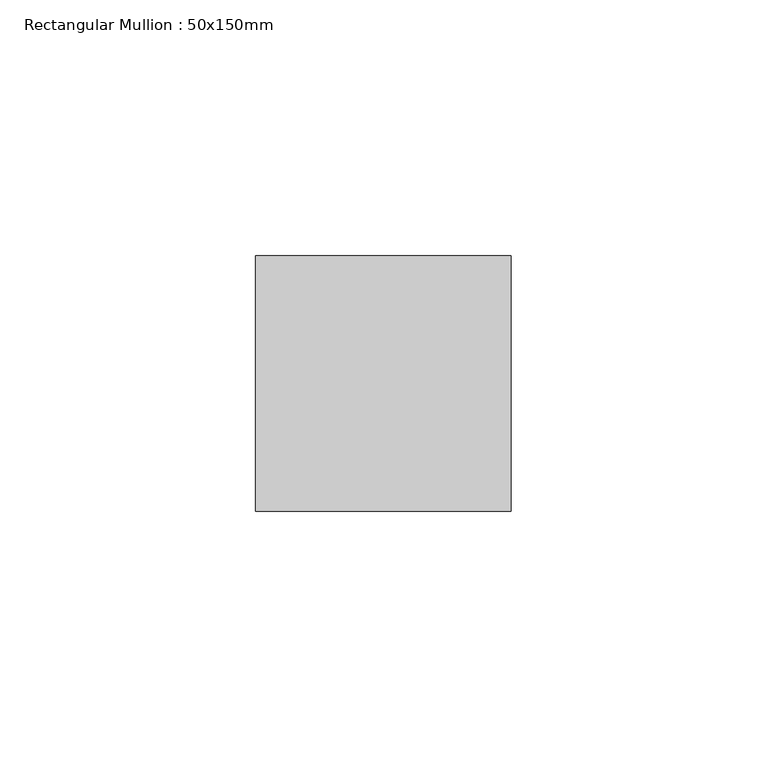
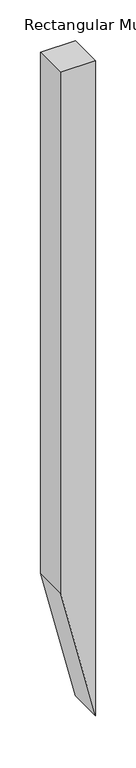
"""IFC4 building model written with IfcOpenShell, lengths in millimetres: member geometry, Rectangular Mullion : 50x150mm."""

import ifcopenshell
import ifcopenshell.guid

model = None  # the IFC model being written
_history = None  # IfcOwnerHistory: only IFC2X3 demands one
_inside = {}  # id of a spatial element -> (the spatial element, [elements in it])
_under = {}  # id of a project, library or spatial element -> (it, [spatial elements below it])
_declared = {}  # id of a project -> (the project, [libraries it declares])
_typed = {}  # id of a type object -> (the type object, [elements of that type])
_made_of = {}  # id of a material, layer set ... -> (it, [elements and type objects made of it])


def new_model(schema):
    """Start an empty IFC model of exactly this schema.

    Asked for "IFC4X3", IfcOpenShell would pick the latest addendum, in which some entities
    have other attributes; the version numbers below select the first issue.
    IFC2X3 requires an IfcOwnerHistory on every rooted entity: one is made here for all.
    """
    global model, _history
    if schema == "IFC4X3":
        model = ifcopenshell.file(schema_version=(4, 3, 0, 0))
    else:
        model = ifcopenshell.file(schema=schema)
    _inside.clear()
    _under.clear()
    _declared.clear()
    _typed.clear()
    _made_of.clear()
    _history = None
    if model.schema == "IFC2X3":
        org = make("IfcOrganization", Name="unknown")
        user = make(
            "IfcPersonAndOrganization",
            ThePerson=make("IfcPerson", FamilyName="unknown"),
            TheOrganization=org,
        )
        app = make(
            "IfcApplication",
            ApplicationDeveloper=org,
            Version="unknown",
            ApplicationFullName="unknown",
            ApplicationIdentifier="unknown",
        )
        _history = make(
            "IfcOwnerHistory",
            OwningUser=user,
            OwningApplication=app,
            ChangeAction="ADDED",
            CreationDate=0,
        )
    return model


def make(cls, **values):
    """One entity of the class cls with the attributes given. An attribute that is None is left unset."""
    return model.create_entity(
        cls, **{name: value for name, value in values.items() if value is not None}
    )


def rooted(cls, **values):
    """An entity with a GlobalId (a new one), such as an element, a storey or a relation."""
    return make(cls, GlobalId=ifcopenshell.guid.new(), OwnerHistory=_history, **values)


def si_unit(unit_type, name, prefix=None):
    """IfcSIUnit, for example si_unit("LENGTHUNIT", "METRE", prefix="MILLI")."""
    return make("IfcSIUnit", UnitType=unit_type, Prefix=prefix, Name=name)


def assignment(units):
    """IfcUnitAssignment: the units of a project."""
    return None if units is None else make("IfcUnitAssignment", Units=units)


def point(xyz):
    """IfcCartesianPoint."""
    return None if xyz is None else make("IfcCartesianPoint", Coordinates=xyz)


def direction(xyz):
    """IfcDirection."""
    return None if xyz is None else make("IfcDirection", DirectionRatios=xyz)


def frame(location, z_axis=None, x_axis=None):
    """IfcAxis2Placement3D, a coordinate frame: its origin and axes. An axis left out is left unset."""
    return make(
        "IfcAxis2Placement3D",
        Location=point(location),
        Axis=direction(z_axis),
        RefDirection=direction(x_axis),
    )


def origin():
    """The frame at (0, 0, 0) with its axes left unset."""
    return frame((0.0, 0.0, 0.0))


def place(relative_to, where):
    """IfcLocalPlacement: puts the frame where relative to a parent placement (None: the world)."""
    return make(
        "IfcLocalPlacement", PlacementRelTo=relative_to, RelativePlacement=where
    )


def context(
    kind, dimensions, precision=None, world=None, true_north=None, identifier=None
):
    """IfcGeometricRepresentationContext, for example the 3D "Model" context."""
    return make(
        "IfcGeometricRepresentationContext",
        ContextIdentifier=identifier,
        ContextType=kind,
        CoordinateSpaceDimension=dimensions,
        Precision=precision,
        WorldCoordinateSystem=world,
        TrueNorth=true_north,
    )


def project(units=None, contexts=None):
    """IfcProject with its units and contexts."""
    return rooted(
        "IfcProject",
        Name="project",
        RepresentationContexts=contexts,
        UnitsInContext=assignment(units),
    )


def spatial(cls, under=None, at=None, **own):
    """A site, building, storey or space (cls), placed at a placement, below another one or the project."""
    s = rooted(cls, ObjectPlacement=at, **own)
    if under is not None:
        _under.setdefault(under.id(), (under, []))[1].append(s)
    return s


def polyline(points):
    """IfcPolyline through the points."""
    return make("IfcPolyline", Points=[point(p) for p in points])


def outline(outer, holes=None, kind="AREA"):
    """IfcArbitraryClosedProfileDef: a profile drawn as a closed curve; with holes, ...WithVoids."""
    if holes is None:
        return make("IfcArbitraryClosedProfileDef", ProfileType=kind, OuterCurve=outer)
    return make(
        "IfcArbitraryProfileDefWithVoids",
        ProfileType=kind,
        OuterCurve=outer,
        InnerCurves=holes,
    )


def extrude(swept, where, along, depth):
    """IfcExtrudedAreaSolid: the profile swept, set in the frame where, extruded along a direction by depth."""
    return make(
        "IfcExtrudedAreaSolid",
        SweptArea=swept,
        Position=where,
        ExtrudedDirection=direction(along),
        Depth=depth,
    )


def shape(context_of_items, identifier, shape_type, items):
    """IfcShapeRepresentation: the items that make up one representation, for example the "Body"."""
    return make(
        "IfcShapeRepresentation",
        ContextOfItems=context_of_items,
        RepresentationIdentifier=identifier,
        RepresentationType=shape_type,
        Items=items,
    )


def source(mapping_origin, context_of_items, identifier, shape_type, items):
    """IfcRepresentationMap: a shape defined once, which mapped items show again and again."""
    return make(
        "IfcRepresentationMap",
        MappingOrigin=mapping_origin,
        MappedRepresentation=shape(context_of_items, identifier, shape_type, items),
    )


def transform(
    local_origin,
    x_axis=None,
    y_axis=None,
    z_axis=None,
    scale=None,
    scale2=None,
    scale3=None,
    uniform=True,
):
    """IfcCartesianTransformationOperator3D, or its non-uniform kind. x_axis, y_axis, z_axis: its Axis1, 2, 3."""
    if uniform:
        return make(
            "IfcCartesianTransformationOperator3D",
            Axis1=direction(x_axis),
            Axis2=direction(y_axis),
            LocalOrigin=point(local_origin),
            Scale=scale,
            Axis3=direction(z_axis),
        )
    return make(
        "IfcCartesianTransformationOperator3DnonUniform",
        Axis1=direction(x_axis),
        Axis2=direction(y_axis),
        LocalOrigin=point(local_origin),
        Scale=scale,
        Axis3=direction(z_axis),
        Scale2=scale2,
        Scale3=scale3,
    )


def mapped(mapping_source, mapping_target):
    """IfcMappedItem: shows the shape of a source again, moved by a transform."""
    return make(
        "IfcMappedItem", MappingSource=mapping_source, MappingTarget=mapping_target
    )


def made_of(thing, what):
    """Note that an element or type object is made of a material, layer set ...; save() writes the relation."""
    if what is not None:
        _made_of.setdefault(what.id(), (what, []))[1].append(thing)
    return thing


def element(
    cls,
    number,
    at=None,
    inside=None,
    cuts=None,
    type_object=None,
    material=None,
    context=None,
    identifier="Body",
    shape_type=None,
    held_by="IfcProductDefinitionShape",
    body=None,
    shapes=None,
    **own,
):
    """One element of the class cls, such as IfcWall. Its Tag is "e" and its number.

    at: its placement. inside: the storey or other place that contains it. cuts: it is an
    opening in that element (IfcRelVoidsElement). A single representation is given by context,
    identifier, shape_type and body (its items); several are given by shapes. held_by: the class
    of the entity that holds the representations. save() writes the other relations.
    """
    e = rooted(cls, Tag="e%d" % number, ObjectPlacement=at, **own)
    if body is not None:
        shapes = [shape(context, identifier, shape_type, body)]
    if shapes is not None:
        e.Representation = make(held_by, Representations=shapes)
    if inside is not None:
        _inside.setdefault(inside.id(), (inside, []))[1].append(e)
    if cuts is not None:
        rooted(
            "IfcRelVoidsElement", RelatingBuildingElement=cuts, RelatedOpeningElement=e
        )
    if type_object is not None:
        _typed.setdefault(type_object.id(), (type_object, []))[1].append(e)
    return made_of(e, material)


def aggregate(whole, parts):
    """IfcRelAggregates: a whole, such as a stair, and the parts it consists of."""
    return rooted("IfcRelAggregates", RelatingObject=whole, RelatedObjects=parts)


def save(model, path):
    """Write the relations noted so far, then the file.

    IfcRelAggregates (storeys below a building ...), IfcRelContainedInSpatialStructure (elements
    in a storey), IfcRelDefinesByType, IfcRelAssociatesMaterial and IfcRelDeclares: one each for
    every whole, place, type object, material and project.
    """
    for whole, parts in _under.values():
        aggregate(whole, parts)
    for where, things in _inside.values():
        rooted(
            "IfcRelContainedInSpatialStructure",
            RelatedElements=things,
            RelatingStructure=where,
        )
    for kind, things in _typed.values():
        rooted("IfcRelDefinesByType", RelatedObjects=things, RelatingType=kind)
    for what, things in _made_of.values():
        rooted("IfcRelAssociatesMaterial", RelatedObjects=things, RelatingMaterial=what)
    for by, libraries in _declared.values():
        rooted("IfcRelDeclares", RelatingContext=by, RelatedDefinitions=libraries)
    model.write(path)


def rectangular_mullion_50x150mm_8bf6f725(model_context):
    return source(origin(), model_context, "Body", "SweptSolid", [
        extrude(outline(polyline([(0.0, 0.0), (0.0, -50.0), (-784.3805335, -50.0), (-986.6627977, 0.0), (0.0, 0.0)])), frame((0.0, -25.0, 0.0), z_axis=(0.0, 1.0, 0.0), x_axis=(0.0, 0.0, 1.0)), (0.0, 0.0, 1.0), 50.0),
    ])


if __name__ == "__main__":
    model = new_model("IFC4")
    model_context = context("Model", 3, world=origin())
    ifc_project = project(units=[si_unit("LENGTHUNIT", "METRE", prefix="MILLI")], contexts=[model_context])
    site = spatial("IfcSite", under=ifc_project)
    building = spatial("IfcBuilding", under=site)
    placement = place(None, origin())
    rectangular_mullion_50x150mm_shape = rectangular_mullion_50x150mm_8bf6f725(model_context)
    element("IfcMember", 1, ObjectType="Rectangular Mullion : 50x150mm", at=placement, inside=building, context=model_context, shape_type="MappedRepresentation", body=[
        mapped(rectangular_mullion_50x150mm_shape, transform((0.0, 0.0, 0.0), x_axis=(1.0, 0.0, 0.0), y_axis=(0.0, 1.0, 0.0), z_axis=(0.0, 0.0, 1.0))),
    ])
    save(model, "model.ifc")
